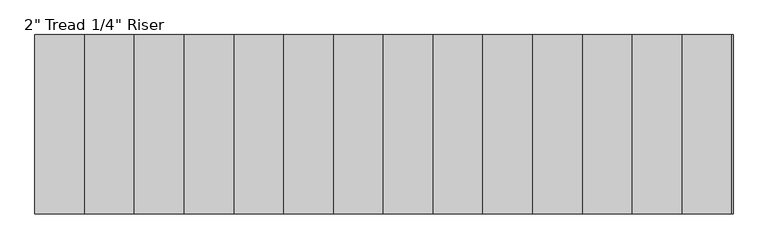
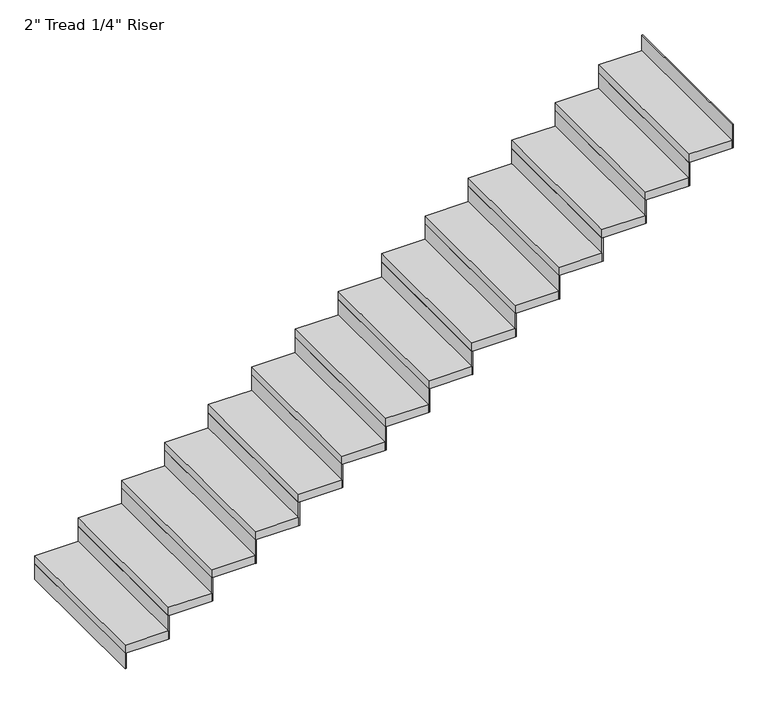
"""IFC4 building model written with IfcOpenShell, lengths in millimetres: stair flight geometry."""

from ifc_helpers import new_model, si_unit, frame, origin, origin_with_axes, place, context, project, spatial, polyline, outline, extrude, source, transform, mapped, element, save


def stair_flight_17b7475d(model_context):
    return source(origin(), model_context, "Body", "SweptSolid", [
        extrude(outline(polyline([(29424.7548668, 21385.3361774), (29418.4048668, 21385.3361774), (29418.4048668, 22299.7361774), (29424.7548668, 22299.7361774), (29424.7548668, 21385.3361774)])), origin_with_axes(), (0.0, 0.0, 1.0), 94.3428571),
        extrude(outline(polyline([(29672.4048668, 22299.7361774), (29672.4048668, 21385.3361774), (29418.4048668, 21385.3361774), (29418.4048668, 22299.7361774), (29672.4048668, 22299.7361774)])), frame((0.0, 0.0, 94.3428571), z_axis=(0.0, 0.0, 1.0), x_axis=(1.0, 0.0, 0.0)), (0.0, 0.0, 1.0), 50.8),
        extrude(outline(polyline([(29678.7548668, 21385.3361774), (29672.4048668, 21385.3361774), (29672.4048668, 22299.7361774), (29678.7548668, 22299.7361774), (29678.7548668, 21385.3361774)])), frame((0.0, 0.0, 94.3428571), z_axis=(0.0, 0.0, 1.0), x_axis=(1.0, 0.0, 0.0)), (0.0, 0.0, 1.0), 145.1428571),
        extrude(outline(polyline([(29926.4048668, 22299.7361774), (29926.4048668, 21385.3361774), (29672.4048668, 21385.3361774), (29672.4048668, 22299.7361774), (29926.4048668, 22299.7361774)])), frame((0.0, 0.0, 239.4857143), z_axis=(0.0, 0.0, 1.0), x_axis=(1.0, 0.0, 0.0)), (0.0, 0.0, 1.0), 50.8),
        extrude(outline(polyline([(29932.7548668, 21385.3361774), (29926.4048668, 21385.3361774), (29926.4048668, 22299.7361774), (29932.7548668, 22299.7361774), (29932.7548668, 21385.3361774)])), frame((0.0, 0.0, 239.4857143), z_axis=(0.0, 0.0, 1.0), x_axis=(1.0, 0.0, 0.0)), (0.0, 0.0, 1.0), 145.1428571),
        extrude(outline(polyline([(30180.4048668, 22299.7361774), (30180.4048668, 21385.3361774), (29926.4048668, 21385.3361774), (29926.4048668, 22299.7361774), (30180.4048668, 22299.7361774)])), frame((0.0, 0.0, 384.6285714), z_axis=(0.0, 0.0, 1.0), x_axis=(1.0, 0.0, 0.0)), (0.0, 0.0, 1.0), 50.8),
        extrude(outline(polyline([(30186.7548668, 21385.3361774), (30180.4048668, 21385.3361774), (30180.4048668, 22299.7361774), (30186.7548668, 22299.7361774), (30186.7548668, 21385.3361774)])), frame((0.0, 0.0, 384.6285714), z_axis=(0.0, 0.0, 1.0), x_axis=(1.0, 0.0, 0.0)), (0.0, 0.0, 1.0), 145.1428571),
        extrude(outline(polyline([(30434.4048668, 22299.7361774), (30434.4048668, 21385.3361774), (30180.4048668, 21385.3361774), (30180.4048668, 22299.7361774), (30434.4048668, 22299.7361774)])), frame((0.0, 0.0, 529.7714286), z_axis=(0.0, 0.0, 1.0), x_axis=(1.0, 0.0, 0.0)), (0.0, 0.0, 1.0), 50.8),
        extrude(outline(polyline([(30440.7548668, 21385.3361774), (30434.4048668, 21385.3361774), (30434.4048668, 22299.7361774), (30440.7548668, 22299.7361774), (30440.7548668, 21385.3361774)])), frame((0.0, 0.0, 529.7714286), z_axis=(0.0, 0.0, 1.0), x_axis=(1.0, 0.0, 0.0)), (0.0, 0.0, 1.0), 145.1428571),
        extrude(outline(polyline([(30688.4048668, 22299.7361774), (30688.4048668, 21385.3361774), (30434.4048668, 21385.3361774), (30434.4048668, 22299.7361774), (30688.4048668, 22299.7361774)])), frame((0.0, 0.0, 674.9142857), z_axis=(0.0, 0.0, 1.0), x_axis=(1.0, 0.0, 0.0)), (0.0, 0.0, 1.0), 50.8),
        extrude(outline(polyline([(30694.7548668, 21385.3361774), (30688.4048668, 21385.3361774), (30688.4048668, 22299.7361774), (30694.7548668, 22299.7361774), (30694.7548668, 21385.3361774)])), frame((0.0, 0.0, 674.9142857), z_axis=(0.0, 0.0, 1.0), x_axis=(1.0, 0.0, 0.0)), (0.0, 0.0, 1.0), 145.1428571),
        extrude(outline(polyline([(30942.4048668, 22299.7361774), (30942.4048668, 21385.3361774), (30688.4048668, 21385.3361774), (30688.4048668, 22299.7361774), (30942.4048668, 22299.7361774)])), frame((0.0, 0.0, 820.0571429), z_axis=(0.0, 0.0, 1.0), x_axis=(1.0, 0.0, 0.0)), (0.0, 0.0, 1.0), 50.8),
        extrude(outline(polyline([(30948.7548668, 21385.3361774), (30942.4048668, 21385.3361774), (30942.4048668, 22299.7361774), (30948.7548668, 22299.7361774), (30948.7548668, 21385.3361774)])), frame((0.0, 0.0, 820.0571429), z_axis=(0.0, 0.0, 1.0), x_axis=(1.0, 0.0, 0.0)), (0.0, 0.0, 1.0), 145.1428571),
        extrude(outline(polyline([(31196.4048668, 22299.7361774), (31196.4048668, 21385.3361774), (30942.4048668, 21385.3361774), (30942.4048668, 22299.7361774), (31196.4048668, 22299.7361774)])), frame((0.0, 0.0, 965.2), z_axis=(0.0, 0.0, 1.0), x_axis=(1.0, 0.0, 0.0)), (0.0, 0.0, 1.0), 50.8),
        extrude(outline(polyline([(31202.7548668, 21385.3361774), (31196.4048668, 21385.3361774), (31196.4048668, 22299.7361774), (31202.7548668, 22299.7361774), (31202.7548668, 21385.3361774)])), frame((0.0, 0.0, 965.2), z_axis=(0.0, 0.0, 1.0), x_axis=(1.0, 0.0, 0.0)), (0.0, 0.0, 1.0), 145.1428571),
        extrude(outline(polyline([(31450.4048668, 22299.7361774), (31450.4048668, 21385.3361774), (31196.4048668, 21385.3361774), (31196.4048668, 22299.7361774), (31450.4048668, 22299.7361774)])), frame((0.0, 0.0, 1110.3428571), z_axis=(0.0, 0.0, 1.0), x_axis=(1.0, 0.0, 0.0)), (0.0, 0.0, 1.0), 50.8),
        extrude(outline(polyline([(31456.7548668, 21385.3361774), (31450.4048668, 21385.3361774), (31450.4048668, 22299.7361774), (31456.7548668, 22299.7361774), (31456.7548668, 21385.3361774)])), frame((0.0, 0.0, 1110.3428571), z_axis=(0.0, 0.0, 1.0), x_axis=(1.0, 0.0, 0.0)), (0.0, 0.0, 1.0), 145.1428571),
        extrude(outline(polyline([(31704.4048668, 22299.7361774), (31704.4048668, 21385.3361774), (31450.4048668, 21385.3361774), (31450.4048668, 22299.7361774), (31704.4048668, 22299.7361774)])), frame((0.0, 0.0, 1255.4857143), z_axis=(0.0, 0.0, 1.0), x_axis=(1.0, 0.0, 0.0)), (0.0, 0.0, 1.0), 50.8),
        extrude(outline(polyline([(31710.7548668, 21385.3361774), (31704.4048668, 21385.3361774), (31704.4048668, 22299.7361774), (31710.7548668, 22299.7361774), (31710.7548668, 21385.3361774)])), frame((0.0, 0.0, 1255.4857143), z_axis=(0.0, 0.0, 1.0), x_axis=(1.0, 0.0, 0.0)), (0.0, 0.0, 1.0), 145.1428571),
        extrude(outline(polyline([(31958.4048668, 22299.7361774), (31958.4048668, 21385.3361774), (31704.4048668, 21385.3361774), (31704.4048668, 22299.7361774), (31958.4048668, 22299.7361774)])), frame((0.0, 0.0, 1400.6285714), z_axis=(0.0, 0.0, 1.0), x_axis=(1.0, 0.0, 0.0)), (0.0, 0.0, 1.0), 50.8),
        extrude(outline(polyline([(31964.7548668, 21385.3361774), (31958.4048668, 21385.3361774), (31958.4048668, 22299.7361774), (31964.7548668, 22299.7361774), (31964.7548668, 21385.3361774)])), frame((0.0, 0.0, 1400.6285714), z_axis=(0.0, 0.0, 1.0), x_axis=(1.0, 0.0, 0.0)), (0.0, 0.0, 1.0), 145.1428571),
        extrude(outline(polyline([(32212.4048668, 22299.7361774), (32212.4048668, 21385.3361774), (31958.4048668, 21385.3361774), (31958.4048668, 22299.7361774), (32212.4048668, 22299.7361774)])), frame((0.0, 0.0, 1545.7714286), z_axis=(0.0, 0.0, 1.0), x_axis=(1.0, 0.0, 0.0)), (0.0, 0.0, 1.0), 50.8),
        extrude(outline(polyline([(32218.7548668, 21385.3361774), (32212.4048668, 21385.3361774), (32212.4048668, 22299.7361774), (32218.7548668, 22299.7361774), (32218.7548668, 21385.3361774)])), frame((0.0, 0.0, 1545.7714286), z_axis=(0.0, 0.0, 1.0), x_axis=(1.0, 0.0, 0.0)), (0.0, 0.0, 1.0), 145.1428571),
        extrude(outline(polyline([(32466.4048668, 22299.7361774), (32466.4048668, 21385.3361774), (32212.4048668, 21385.3361774), (32212.4048668, 22299.7361774), (32466.4048668, 22299.7361774)])), frame((0.0, 0.0, 1690.9142857), z_axis=(0.0, 0.0, 1.0), x_axis=(1.0, 0.0, 0.0)), (0.0, 0.0, 1.0), 50.8),
        extrude(outline(polyline([(32472.7548668, 21385.3361774), (32466.4048668, 21385.3361774), (32466.4048668, 22299.7361774), (32472.7548668, 22299.7361774), (32472.7548668, 21385.3361774)])), frame((0.0, 0.0, 1690.9142857), z_axis=(0.0, 0.0, 1.0), x_axis=(1.0, 0.0, 0.0)), (0.0, 0.0, 1.0), 145.1428571),
        extrude(outline(polyline([(32720.4048668, 22299.7361774), (32720.4048668, 21385.3361774), (32466.4048668, 21385.3361774), (32466.4048668, 22299.7361774), (32720.4048668, 22299.7361774)])), frame((0.0, 0.0, 1836.0571429), z_axis=(0.0, 0.0, 1.0), x_axis=(1.0, 0.0, 0.0)), (0.0, 0.0, 1.0), 50.8),
        extrude(outline(polyline([(32726.7548668, 21385.3361774), (32720.4048668, 21385.3361774), (32720.4048668, 22299.7361774), (32726.7548668, 22299.7361774), (32726.7548668, 21385.3361774)])), frame((0.0, 0.0, 1836.0571429), z_axis=(0.0, 0.0, 1.0), x_axis=(1.0, 0.0, 0.0)), (0.0, 0.0, 1.0), 145.1428571),
        extrude(outline(polyline([(32980.7548668, 21385.3361774), (32974.4048668, 21385.3361774), (32974.4048668, 22299.7361774), (32980.7548668, 22299.7361774), (32980.7548668, 21385.3361774)])), frame((0.0, 0.0, 1981.2), z_axis=(0.0, 0.0, 1.0), x_axis=(1.0, 0.0, 0.0)), (0.0, 0.0, 1.0), 145.1428571),
        extrude(outline(polyline([(32974.4048668, 22299.7361774), (32974.4048668, 21385.3361774), (32720.4048668, 21385.3361774), (32720.4048668, 22299.7361774), (32974.4048668, 22299.7361774)])), frame((0.0, 0.0, 1981.2), z_axis=(0.0, 0.0, 1.0), x_axis=(1.0, 0.0, 0.0)), (0.0, 0.0, 1.0), 50.8),
    ])


if __name__ == "__main__":
    model = new_model("IFC4")
    model_context = context("Model", 3, world=origin())
    ifc_project = project(units=[si_unit("LENGTHUNIT", "METRE", prefix="MILLI")], contexts=[model_context])
    site = spatial("IfcSite", under=ifc_project)
    building = spatial("IfcBuilding", under=site)
    placement = place(None, origin())
    stair_flight_shape = stair_flight_17b7475d(model_context)
    element("IfcStairFlight", 1, ObjectType="2\" Tread 1/4\" Riser", at=placement, inside=building, context=model_context, shape_type="MappedRepresentation", body=[
        mapped(stair_flight_shape, transform((0.0, 0.0, 0.0), x_axis=(1.0, 0.0, 0.0), y_axis=(0.0, 1.0, 0.0), z_axis=(0.0, 0.0, 1.0))),
    ])
    save(model, "model.ifc")
